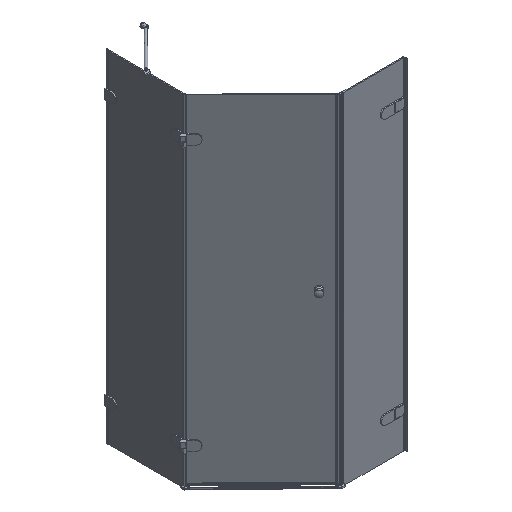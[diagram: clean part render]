
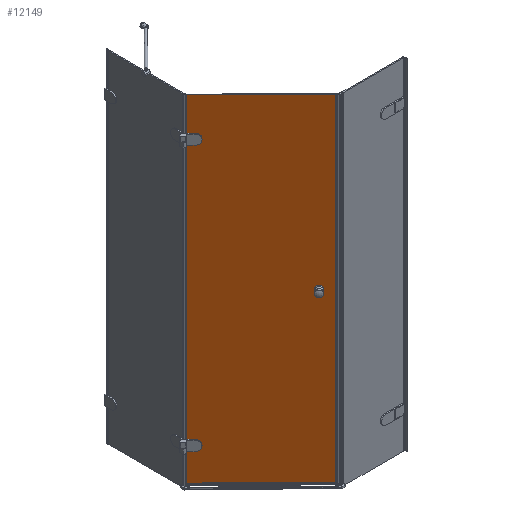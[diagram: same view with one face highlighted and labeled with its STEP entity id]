
A CAD part, isometric view. The second image highlights one B-rep face of the part: STEP entity #12149.
In plain terms, the highlighted planar face has unit normal (-0.703, -0.711, 0).
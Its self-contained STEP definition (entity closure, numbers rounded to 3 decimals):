
#843=FACE_OUTER_BOUND($,#1499,.T.);
#1499=EDGE_LOOP($,(#9937,#9938,#9939,#9940));
#2581=LINE($,#19787,#3796);
#2646=LINE($,#19989,#3861);
#2656=LINE($,#20018,#3871);
#2657=LINE($,#20019,#3872);
#3796=VECTOR($,#15729,1875.4);
#3861=VECTOR($,#15940,595.);
#3871=VECTOR($,#15978,595.);
#3872=VECTOR($,#15979,1875.4);
#5299=VERTEX_POINT($,#19769);
#5302=VERTEX_POINT($,#19785);
#5354=VERTEX_POINT($,#19988);
#5359=VERTEX_POINT($,#20017);
#6824=EDGE_CURVE($,#5299,#5302,#2581,.T.);
#6921=EDGE_CURVE($,#5299,#5354,#2646,.T.);
#6935=EDGE_CURVE($,#5302,#5359,#2656,.T.);
#6936=EDGE_CURVE($,#5354,#5359,#2657,.T.);
#9937=ORIENTED_EDGE($,*,*,#6921,.F.);
#9938=ORIENTED_EDGE($,*,*,#6824,.T.);
#9939=ORIENTED_EDGE($,*,*,#6935,.T.);
#9940=ORIENTED_EDGE($,*,*,#6936,.F.);
#10905=PLANE($,#13126);
#12149=ADVANCED_FACE($,(#843),#10905,.F.);
#13126=AXIS2_PLACEMENT_3D($,#20016,#15976,#15977);
#15729=DIRECTION($,(0.,0.,1.));
#15940=DIRECTION($,(-0.711,0.703,0.));
#15976=DIRECTION('center_axis',(0.703,0.711,0.));
#15977=DIRECTION('ref_axis',(-0.711,0.703,0.));
#15978=DIRECTION($,(-0.711,0.703,0.));
#15979=DIRECTION($,(0.,0.,1.));
#19769=CARTESIAN_POINT('',(1745.298,-14.585,-415.056));
#19785=CARTESIAN_POINT('',(1745.298,-14.585,1460.344));
#19787=CARTESIAN_POINT($,(1745.298,-14.585,-419.656));
#19988=CARTESIAN_POINT('',(1322.355,403.917,-415.056));
#19989=CARTESIAN_POINT($,(1752.407,-21.618,-415.056));
#20016=CARTESIAN_POINT('Origin',(1745.298,-14.585,-419.656));
#20017=CARTESIAN_POINT('',(1322.355,403.917,1460.344));
#20018=CARTESIAN_POINT($,(1745.298,-14.585,1460.344));
#20019=CARTESIAN_POINT($,(1322.355,403.917,-419.656));
